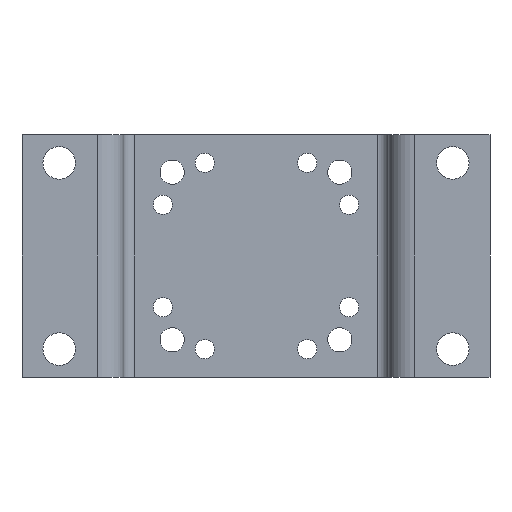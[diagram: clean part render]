
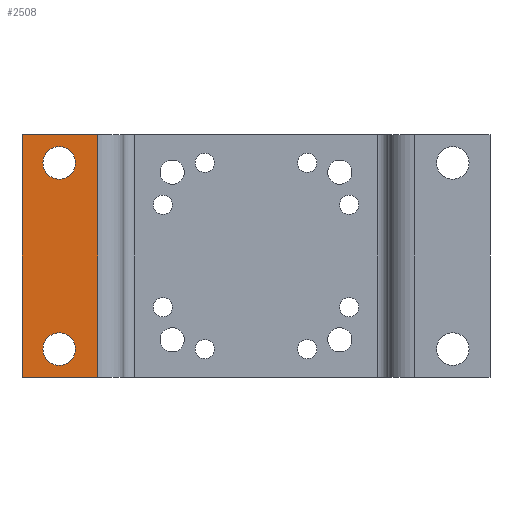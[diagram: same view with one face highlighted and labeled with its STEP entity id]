
A CAD part, front view. The second image highlights one B-rep face of the part: STEP entity #2508.
In plain terms, the highlighted planar face has unit normal (0, -1, 0).
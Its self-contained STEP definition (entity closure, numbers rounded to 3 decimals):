
#13 = EDGE_CURVE ( 'NONE', #1280, #348, #1185, .T. ) ;
#31 = DIRECTION ( 'NONE',  ( 0., 1., 0. ) ) ;
#55 = CARTESIAN_POINT ( 'NONE',  ( -34., -12., 0. ) ) ;
#97 = AXIS2_PLACEMENT_3D ( 'NONE', #2613, #1142, #1359 ) ;
#167 = AXIS2_PLACEMENT_3D ( 'NONE', #2590, #1908, #1950 ) ;
#186 = DIRECTION ( 'NONE',  ( 1., 0., 0. ) ) ;
#269 = CARTESIAN_POINT ( 'NONE',  ( -42.25, -12., 2.5 ) ) ;
#302 = CARTESIAN_POINT ( 'NONE',  ( -34., -12., 52. ) ) ;
#319 = CARTESIAN_POINT ( 'NONE',  ( -42.25, -12., 49.5 ) ) ;
#341 = EDGE_CURVE ( 'NONE', #660, #1504, #656, .T. ) ;
#348 = VERTEX_POINT ( 'NONE', #482 ) ;
#357 = AXIS2_PLACEMENT_3D ( 'NONE', #1264, #2111, #1900 ) ;
#369 = CARTESIAN_POINT ( 'NONE',  ( -50.25, -12., 0. ) ) ;
#383 = DIRECTION ( 'NONE',  ( 0., 0., 1. ) ) ;
#426 = PLANE ( 'NONE',  #97 ) ;
#448 = VECTOR ( 'NONE', #705, 1000. ) ;
#481 = ORIENTED_EDGE ( 'NONE', *, *, #1787, .F. ) ;
#482 = CARTESIAN_POINT ( 'NONE',  ( -42.25, -12., 9.5 ) ) ;
#656 = CIRCLE ( 'NONE', #167, 3.5 ) ;
#660 = VERTEX_POINT ( 'NONE', #319 ) ;
#690 = DIRECTION ( 'NONE',  ( 0., 0., -1. ) ) ;
#705 = DIRECTION ( 'NONE',  ( 1., 0., 0. ) ) ;
#747 = CARTESIAN_POINT ( 'NONE',  ( -42.25, -12., 6. ) ) ;
#897 = EDGE_CURVE ( 'NONE', #348, #1280, #2344, .T. ) ;
#950 = LINE ( 'NONE', #1001, #1066 ) ;
#1001 = CARTESIAN_POINT ( 'NONE',  ( -50.25, -12., 52. ) ) ;
#1041 = LINE ( 'NONE', #1237, #2140 ) ;
#1066 = VECTOR ( 'NONE', #2047, 1000. ) ;
#1126 = LINE ( 'NONE', #55, #448 ) ;
#1142 = DIRECTION ( 'NONE',  ( 0., 1., 0. ) ) ;
#1185 = CIRCLE ( 'NONE', #2683, 3.5 ) ;
#1237 = CARTESIAN_POINT ( 'NONE',  ( -34., -12., 52. ) ) ;
#1264 = CARTESIAN_POINT ( 'NONE',  ( -42.25, -12., 6. ) ) ;
#1267 = CARTESIAN_POINT ( 'NONE',  ( -42.25, -12., 42.5 ) ) ;
#1280 = VERTEX_POINT ( 'NONE', #269 ) ;
#1290 = EDGE_CURVE ( 'NONE', #2628, #2172, #1126, .T. ) ;
#1291 = ORIENTED_EDGE ( 'NONE', *, *, #1290, .T. ) ;
#1315 = CARTESIAN_POINT ( 'NONE',  ( -42.25, -12., 46. ) ) ;
#1359 = DIRECTION ( 'NONE',  ( -1., 0., 0. ) ) ;
#1362 = LINE ( 'NONE', #2205, #2183 ) ;
#1446 = DIRECTION ( 'NONE',  ( 0., 1., 0. ) ) ;
#1504 = VERTEX_POINT ( 'NONE', #1267 ) ;
#1532 = EDGE_LOOP ( 'NONE', ( #2680, #2177 ) ) ;
#1558 = VERTEX_POINT ( 'NONE', #302 ) ;
#1635 = VERTEX_POINT ( 'NONE', #2459 ) ;
#1683 = FACE_BOUND ( 'NONE', #1532, .T. ) ;
#1787 = EDGE_CURVE ( 'NONE', #1635, #1558, #1041, .T. ) ;
#1853 = CARTESIAN_POINT ( 'NONE',  ( -34., -12., 0. ) ) ;
#1900 = DIRECTION ( 'NONE',  ( 0., 0., 1. ) ) ;
#1908 = DIRECTION ( 'NONE',  ( 0., 1., 0. ) ) ;
#1950 = DIRECTION ( 'NONE',  ( 0., 0., -1. ) ) ;
#1999 = AXIS2_PLACEMENT_3D ( 'NONE', #1315, #31, #2149 ) ;
#2016 = ORIENTED_EDGE ( 'NONE', *, *, #2355, .F. ) ;
#2047 = DIRECTION ( 'NONE',  ( 0., 0., -1. ) ) ;
#2111 = DIRECTION ( 'NONE',  ( 0., 1., 0. ) ) ;
#2140 = VECTOR ( 'NONE', #186, 1000. ) ;
#2147 = EDGE_LOOP ( 'NONE', ( #1291, #2016, #481, #2572 ) ) ;
#2149 = DIRECTION ( 'NONE',  ( 0., 0., -1. ) ) ;
#2172 = VERTEX_POINT ( 'NONE', #1853 ) ;
#2177 = ORIENTED_EDGE ( 'NONE', *, *, #13, .T. ) ;
#2183 = VECTOR ( 'NONE', #690, 1000. ) ;
#2186 = CIRCLE ( 'NONE', #1999, 3.5 ) ;
#2193 = EDGE_CURVE ( 'NONE', #1635, #2628, #950, .T. ) ;
#2205 = CARTESIAN_POINT ( 'NONE',  ( -34., -12., 52. ) ) ;
#2242 = EDGE_LOOP ( 'NONE', ( #2460, #2437 ) ) ;
#2325 = FACE_OUTER_BOUND ( 'NONE', #2147, .T. ) ;
#2344 = CIRCLE ( 'NONE', #357, 3.5 ) ;
#2355 = EDGE_CURVE ( 'NONE', #1558, #2172, #1362, .T. ) ;
#2437 = ORIENTED_EDGE ( 'NONE', *, *, #2552, .T. ) ;
#2459 = CARTESIAN_POINT ( 'NONE',  ( -50.25, -12., 52. ) ) ;
#2460 = ORIENTED_EDGE ( 'NONE', *, *, #341, .T. ) ;
#2508 = ADVANCED_FACE ( 'NONE', ( #1683, #2531, #2325 ), #426, .F. ) ;
#2531 = FACE_BOUND ( 'NONE', #2242, .T. ) ;
#2552 = EDGE_CURVE ( 'NONE', #1504, #660, #2186, .T. ) ;
#2572 = ORIENTED_EDGE ( 'NONE', *, *, #2193, .T. ) ;
#2590 = CARTESIAN_POINT ( 'NONE',  ( -42.25, -12., 46. ) ) ;
#2613 = CARTESIAN_POINT ( 'NONE',  ( -34., -12., 52. ) ) ;
#2628 = VERTEX_POINT ( 'NONE', #369 ) ;
#2680 = ORIENTED_EDGE ( 'NONE', *, *, #897, .T. ) ;
#2683 = AXIS2_PLACEMENT_3D ( 'NONE', #747, #1446, #383 ) ;
